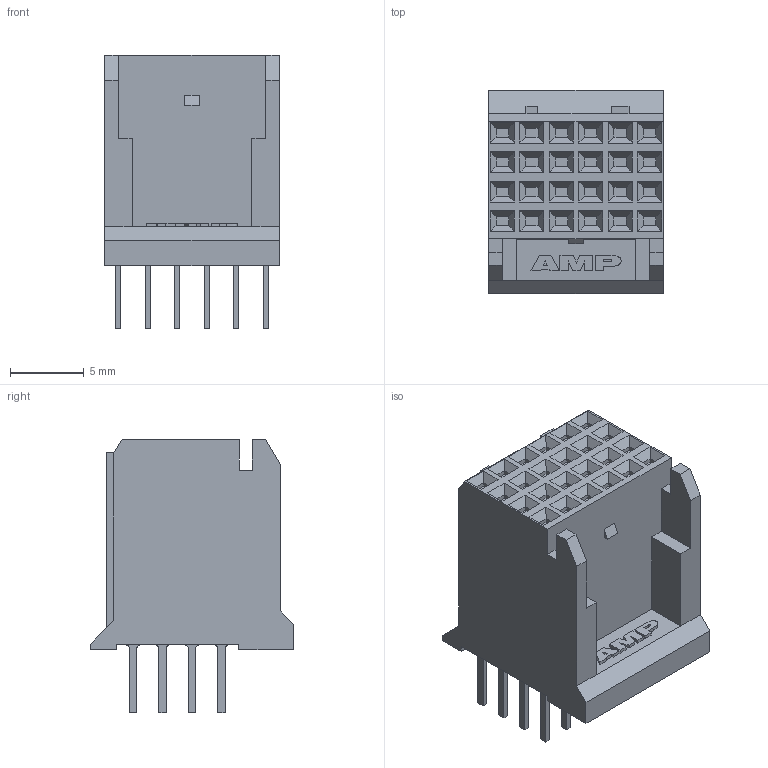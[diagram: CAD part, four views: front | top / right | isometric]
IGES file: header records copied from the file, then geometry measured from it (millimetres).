
Start section:  PTC IGES file: c-5223650-1-o-3d.igs
Global section: file name: c-5223650-1-o-3d.igs; native system: Pro/ENGINEER by Parametric Technology Corporation; preprocessor: 2010430; author: workeradm; organization: Unknown; units: millimetre
Bounding box: 11.88 x 13.8 x 18.55 mm (x, y, z)
Surface area: 1314.1 mm2 (no closed solid volume)
Topology: 0 solids, 0 shells, 574 faces, 2898 edges, 2898 vertices
Faces by surface type: bspline 523, revolution 49, extrusion 2
